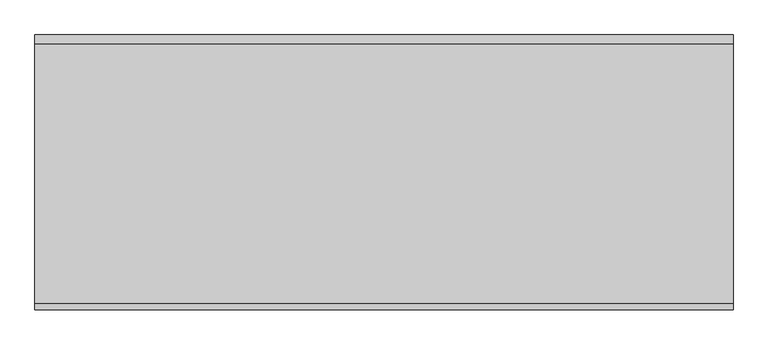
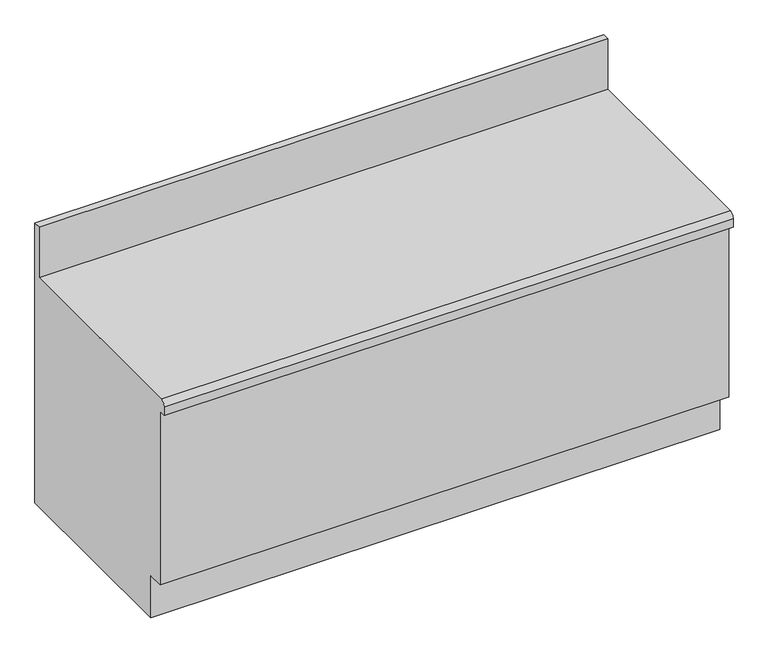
"""IFC4 building model written with IfcOpenShell, lengths in millimetres: flow terminal geometry, 桌上式台盆_多个 : 标准."""

from ifc_helpers import new_model, si_unit, point, frame, frame_2d, origin, place, context, project, spatial, polyline, circle_curve, trimmed, segment, composite_curve, outline, extrude, source, transform, mapped, element, save


def flow_terminal_45a35b00(model_context):
    return source(origin(), model_context, "Body", "SweptSolid", [
        extrude(outline(composite_curve([segment(polyline([(0.0, 832.0), (0.0, 0.0), (-565.0, 0.0), (-565.0, 125.0), (-610.0, 125.0), (-610.0, 642.0), (-630.0, 642.0), (-630.0, 667.0)]), True, "CONTINUOUS"), segment(trimmed(circle_curve(frame_2d((-615.0, 667.0)), 15.0), [point((-630.0, 667.0))], [point((-615.0, 682.0))], False, "CARTESIAN"), True, "CONTINUOUS"), segment(polyline([(-615.0, 682.0), (-20.0, 682.0), (-20.0, 832.0), (0.0, 832.0)]), True, "CONTINUOUS")], self_intersect=False)), frame((-713.6377035, 0.0, 0.0), z_axis=(1.0, 0.0, 0.0), x_axis=(0.0, 1.0, 0.0)), (0.0, 0.0, 1.0), 1600.0),
    ])


if __name__ == "__main__":
    model = new_model("IFC4")
    model_context = context("Model", 3, world=origin())
    ifc_project = project(units=[si_unit("LENGTHUNIT", "METRE", prefix="MILLI")], contexts=[model_context])
    site = spatial("IfcSite", under=ifc_project)
    building = spatial("IfcBuilding", under=site)
    placement = place(None, origin())
    flow_terminal_shape = flow_terminal_45a35b00(model_context)
    element("IfcFlowTerminal", 1, ObjectType="桌上式台盆_多个 : 标准", at=placement, inside=building, context=model_context, shape_type="MappedRepresentation", body=[
        mapped(flow_terminal_shape, transform((0.0, 0.0, 0.0), x_axis=(1.0, 0.0, 0.0), y_axis=(0.0, 1.0, 0.0), z_axis=(0.0, 0.0, 1.0))),
    ])
    save(model, "model.ifc")
